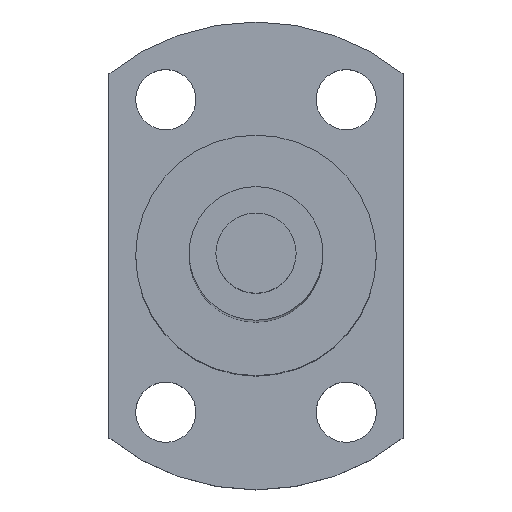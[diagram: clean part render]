
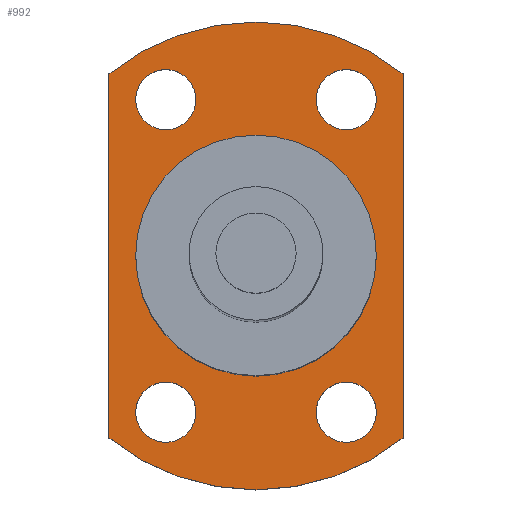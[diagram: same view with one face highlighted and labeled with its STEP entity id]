
A CAD part, top view. The second image highlights one B-rep face of the part: STEP entity #992.
In plain terms, the highlighted planar face has unit normal (0, 0, 1).
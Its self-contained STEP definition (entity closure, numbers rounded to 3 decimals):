
#219=CARTESIAN_POINT('',(6.75,11.691,140.));
#220=DIRECTION('',(0.,0.,-1.));
#221=DIRECTION('',(1.,0.,0.));
#222=AXIS2_PLACEMENT_3D('',#219,#220,#221);
#224=CARTESIAN_POINT('',(6.75,11.691,140.));
#225=DIRECTION('',(0.,0.,-1.));
#226=DIRECTION('',(-1.,0.,0.));
#227=AXIS2_PLACEMENT_3D('',#224,#225,#226);
#229=CARTESIAN_POINT('',(-6.75,11.691,140.));
#230=DIRECTION('',(0.,0.,-1.));
#231=DIRECTION('',(1.,0.,0.));
#232=AXIS2_PLACEMENT_3D('',#229,#230,#231);
#234=CARTESIAN_POINT('',(-6.75,11.691,140.));
#235=DIRECTION('',(0.,0.,-1.));
#236=DIRECTION('',(-1.,0.,0.));
#237=AXIS2_PLACEMENT_3D('',#234,#235,#236);
#239=CARTESIAN_POINT('',(6.75,-11.691,140.));
#240=DIRECTION('',(0.,0.,-1.));
#241=DIRECTION('',(1.,0.,0.));
#242=AXIS2_PLACEMENT_3D('',#239,#240,#241);
#244=CARTESIAN_POINT('',(6.75,-11.691,140.));
#245=DIRECTION('',(0.,0.,-1.));
#246=DIRECTION('',(-1.,0.,0.));
#247=AXIS2_PLACEMENT_3D('',#244,#245,#246);
#249=CARTESIAN_POINT('',(-6.75,-11.691,140.));
#250=DIRECTION('',(0.,0.,-1.));
#251=DIRECTION('',(1.,0.,0.));
#252=AXIS2_PLACEMENT_3D('',#249,#250,#251);
#254=CARTESIAN_POINT('',(-6.75,-11.691,140.));
#255=DIRECTION('',(0.,0.,-1.));
#256=DIRECTION('',(-1.,0.,0.));
#257=AXIS2_PLACEMENT_3D('',#254,#255,#256);
#259=CARTESIAN_POINT('',(0.,0.,140.));
#260=DIRECTION('',(0.,0.,1.));
#261=DIRECTION('',(0.629,0.778,0.));
#262=AXIS2_PLACEMENT_3D('',#259,#260,#261);
#264=DIRECTION('',(0.,1.,0.));
#265=VECTOR('',#264,27.221);
#266=CARTESIAN_POINT('',(11.,-13.611,140.));
#267=LINE('',#266,#265);
#268=CARTESIAN_POINT('',(0.,0.,140.));
#269=DIRECTION('',(0.,0.,1.));
#270=DIRECTION('',(-0.629,-0.778,0.));
#271=AXIS2_PLACEMENT_3D('',#268,#269,#270);
#273=DIRECTION('',(0.,-1.,0.));
#274=VECTOR('',#273,27.221);
#275=CARTESIAN_POINT('',(-11.,13.611,140.));
#276=LINE('',#275,#274);
#277=CARTESIAN_POINT('',(0.,0.,140.));
#278=DIRECTION('',(0.,0.,1.));
#279=DIRECTION('',(1.,0.,0.));
#280=AXIS2_PLACEMENT_3D('',#277,#278,#279);
#282=CARTESIAN_POINT('',(0.,0.,140.));
#283=DIRECTION('',(0.,0.,1.));
#284=DIRECTION('',(-1.,0.,0.));
#285=AXIS2_PLACEMENT_3D('',#282,#283,#284);
#573=CARTESIAN_POINT('',(9.,11.691,140.));
#574=CARTESIAN_POINT('',(4.5,11.691,140.));
#575=VERTEX_POINT('',#573);
#576=VERTEX_POINT('',#574);
#577=CARTESIAN_POINT('',(-4.5,11.691,140.));
#578=CARTESIAN_POINT('',(-9.,11.691,140.));
#579=VERTEX_POINT('',#577);
#580=VERTEX_POINT('',#578);
#581=CARTESIAN_POINT('',(9.,-11.691,140.));
#582=CARTESIAN_POINT('',(4.5,-11.691,140.));
#583=VERTEX_POINT('',#581);
#584=VERTEX_POINT('',#582);
#585=CARTESIAN_POINT('',(-4.5,-11.691,140.));
#586=CARTESIAN_POINT('',(-9.,-11.691,140.));
#587=VERTEX_POINT('',#585);
#588=VERTEX_POINT('',#586);
#589=CARTESIAN_POINT('',(-11.,13.611,140.));
#590=CARTESIAN_POINT('',(-11.,-13.611,140.));
#591=VERTEX_POINT('',#589);
#592=VERTEX_POINT('',#590);
#593=CARTESIAN_POINT('',(11.,-13.611,140.));
#594=CARTESIAN_POINT('',(11.,13.611,140.));
#595=VERTEX_POINT('',#593);
#596=VERTEX_POINT('',#594);
#605=CARTESIAN_POINT('',(9.,0.,140.));
#606=CARTESIAN_POINT('',(-9.,0.,140.));
#607=VERTEX_POINT('',#605);
#608=VERTEX_POINT('',#606);
#949=CARTESIAN_POINT('',(0.,0.,140.));
#950=DIRECTION('',(0.,0.,1.));
#951=DIRECTION('',(1.,0.,0.));
#952=AXIS2_PLACEMENT_3D('',#949,#950,#951);
#953=PLANE('',#952);
#955=ORIENTED_EDGE('',*,*,#954,.F.);
#957=ORIENTED_EDGE('',*,*,#956,.F.);
#959=ORIENTED_EDGE('',*,*,#958,.F.);
#961=ORIENTED_EDGE('',*,*,#960,.F.);
#962=EDGE_LOOP('',(#955,#957,#959,#961));
#963=FACE_OUTER_BOUND('',#962,.F.);
#964=ORIENTED_EDGE('',*,*,#929,.F.);
#965=ORIENTED_EDGE('',*,*,#943,.F.);
#966=EDGE_LOOP('',(#964,#965));
#967=FACE_BOUND('',#966,.F.);
#969=ORIENTED_EDGE('',*,*,#968,.F.);
#971=ORIENTED_EDGE('',*,*,#970,.F.);
#972=EDGE_LOOP('',(#969,#971));
#973=FACE_BOUND('',#972,.F.);
#975=ORIENTED_EDGE('',*,*,#974,.F.);
#977=ORIENTED_EDGE('',*,*,#976,.F.);
#978=EDGE_LOOP('',(#975,#977));
#979=FACE_BOUND('',#978,.F.);
#981=ORIENTED_EDGE('',*,*,#980,.F.);
#983=ORIENTED_EDGE('',*,*,#982,.F.);
#984=EDGE_LOOP('',(#981,#983));
#985=FACE_BOUND('',#984,.F.);
#987=ORIENTED_EDGE('',*,*,#986,.T.);
#989=ORIENTED_EDGE('',*,*,#988,.T.);
#990=EDGE_LOOP('',(#987,#989));
#991=FACE_BOUND('',#990,.F.);
#992=ADVANCED_FACE('',(#963,#967,#973,#979,#985,#991),#953,.T.);
#223=CIRCLE('',#222,2.25);
#228=CIRCLE('',#227,2.25);
#233=CIRCLE('',#232,2.25);
#238=CIRCLE('',#237,2.25);
#243=CIRCLE('',#242,2.25);
#248=CIRCLE('',#247,2.25);
#253=CIRCLE('',#252,2.25);
#258=CIRCLE('',#257,2.25);
#263=CIRCLE('',#262,17.5);
#272=CIRCLE('',#271,17.5);
#281=CIRCLE('',#280,9.);
#286=CIRCLE('',#285,9.);
#929=EDGE_CURVE('',#575,#576,#223,.T.);
#943=EDGE_CURVE('',#576,#575,#228,.T.);
#954=EDGE_CURVE('',#596,#591,#263,.T.);
#956=EDGE_CURVE('',#595,#596,#267,.T.);
#958=EDGE_CURVE('',#592,#595,#272,.T.);
#960=EDGE_CURVE('',#591,#592,#276,.T.);
#968=EDGE_CURVE('',#579,#580,#233,.T.);
#970=EDGE_CURVE('',#580,#579,#238,.T.);
#974=EDGE_CURVE('',#583,#584,#243,.T.);
#976=EDGE_CURVE('',#584,#583,#248,.T.);
#980=EDGE_CURVE('',#587,#588,#253,.T.);
#982=EDGE_CURVE('',#588,#587,#258,.T.);
#986=EDGE_CURVE('',#607,#608,#281,.T.);
#988=EDGE_CURVE('',#608,#607,#286,.T.);
